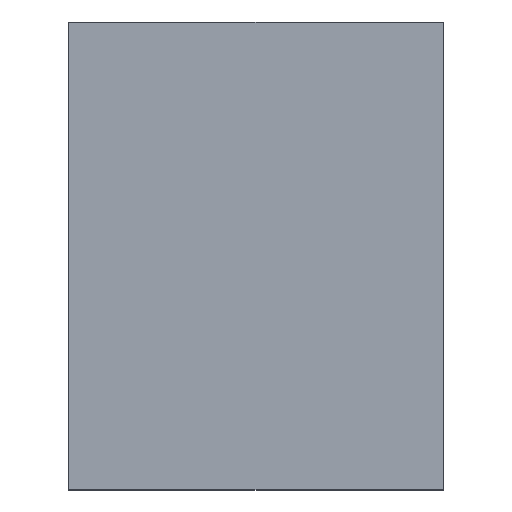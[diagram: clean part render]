
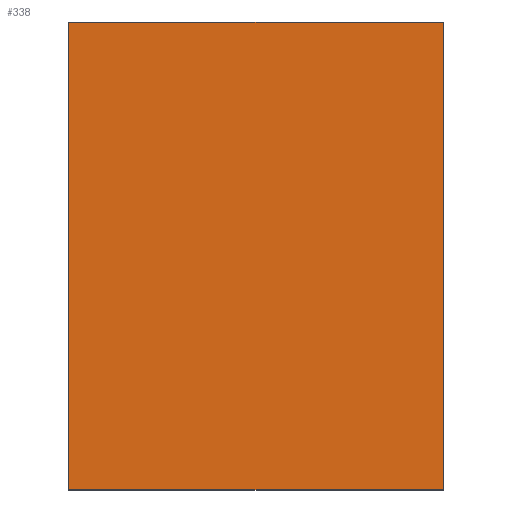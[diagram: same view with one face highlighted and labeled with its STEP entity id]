
A CAD part, top view. The second image highlights one B-rep face of the part: STEP entity #338.
In plain terms, the highlighted planar face has unit normal (0, 0, 1).
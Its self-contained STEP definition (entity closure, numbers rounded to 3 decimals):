
#24 = VERTEX_POINT('',#25);
#25 = CARTESIAN_POINT('',(139.,24.,67.7));
#32 = PLANE('',#33);
#33 = AXIS2_PLACEMENT_3D('',#34,#35,#36);
#34 = CARTESIAN_POINT('',(139.,24.,63.2));
#35 = DIRECTION('',(0.,1.,0.));
#36 = DIRECTION('',(0.,0.,1.));
#44 = PLANE('',#45);
#45 = AXIS2_PLACEMENT_3D('',#46,#47,#48);
#46 = CARTESIAN_POINT('',(139.,24.,63.2));
#47 = DIRECTION('',(-1.,0.,0.));
#48 = DIRECTION('',(0.,0.,1.));
#85 = VERTEX_POINT('',#86);
#86 = CARTESIAN_POINT('',(131.,24.,67.7));
#100 = PLANE('',#101);
#101 = AXIS2_PLACEMENT_3D('',#102,#103,#104);
#102 = CARTESIAN_POINT('',(131.,24.,63.2));
#103 = DIRECTION('',(-1.,0.,0.));
#104 = DIRECTION('',(0.,0.,1.));
#112 = EDGE_CURVE('',#24,#85,#113,.T.);
#113 = SURFACE_CURVE('',#114,(#118,#125),.PCURVE_S1.);
#114 = LINE('',#115,#116);
#115 = CARTESIAN_POINT('',(139.,24.,67.7));
#116 = VECTOR('',#117,1.);
#117 = DIRECTION('',(-1.,0.,0.));
#118 = PCURVE('',#32,#119);
#119 = DEFINITIONAL_REPRESENTATION('',(#120),#124);
#120 = LINE('',#121,#122);
#121 = CARTESIAN_POINT('',(4.5,0.));
#122 = VECTOR('',#123,1.);
#123 = DIRECTION('',(0.,-1.));
#124 = ( GEOMETRIC_REPRESENTATION_CONTEXT(2) 
PARAMETRIC_REPRESENTATION_CONTEXT() REPRESENTATION_CONTEXT('2D SPACE',''
  ) );
#125 = PCURVE('',#126,#131);
#126 = PLANE('',#127);
#127 = AXIS2_PLACEMENT_3D('',#128,#129,#130);
#128 = CARTESIAN_POINT('',(139.,24.,67.7));
#129 = DIRECTION('',(0.,0.,1.));
#130 = DIRECTION('',(0.,1.,0.));
#131 = DEFINITIONAL_REPRESENTATION('',(#132),#136);
#132 = LINE('',#133,#134);
#133 = CARTESIAN_POINT('',(0.,0.));
#134 = VECTOR('',#135,1.);
#135 = DIRECTION('',(0.,1.));
#136 = ( GEOMETRIC_REPRESENTATION_CONTEXT(2) 
PARAMETRIC_REPRESENTATION_CONTEXT() REPRESENTATION_CONTEXT('2D SPACE',''
  ) );
#144 = VERTEX_POINT('',#145);
#145 = CARTESIAN_POINT('',(139.,34.,67.7));
#152 = PLANE('',#153);
#153 = AXIS2_PLACEMENT_3D('',#154,#155,#156);
#154 = CARTESIAN_POINT('',(139.,34.,63.2));
#155 = DIRECTION('',(0.,1.,0.));
#156 = DIRECTION('',(0.,0.,1.));
#195 = VERTEX_POINT('',#196);
#196 = CARTESIAN_POINT('',(131.,34.,67.7));
#217 = EDGE_CURVE('',#144,#195,#218,.T.);
#218 = SURFACE_CURVE('',#219,(#223,#230),.PCURVE_S1.);
#219 = LINE('',#220,#221);
#220 = CARTESIAN_POINT('',(139.,34.,67.7));
#221 = VECTOR('',#222,1.);
#222 = DIRECTION('',(-1.,0.,0.));
#223 = PCURVE('',#152,#224);
#224 = DEFINITIONAL_REPRESENTATION('',(#225),#229);
#225 = LINE('',#226,#227);
#226 = CARTESIAN_POINT('',(4.5,0.));
#227 = VECTOR('',#228,1.);
#228 = DIRECTION('',(0.,-1.));
#229 = ( GEOMETRIC_REPRESENTATION_CONTEXT(2) 
PARAMETRIC_REPRESENTATION_CONTEXT() REPRESENTATION_CONTEXT('2D SPACE',''
  ) );
#230 = PCURVE('',#126,#231);
#231 = DEFINITIONAL_REPRESENTATION('',(#232),#236);
#232 = LINE('',#233,#234);
#233 = CARTESIAN_POINT('',(10.,0.));
#234 = VECTOR('',#235,1.);
#235 = DIRECTION('',(0.,1.));
#236 = ( GEOMETRIC_REPRESENTATION_CONTEXT(2) 
PARAMETRIC_REPRESENTATION_CONTEXT() REPRESENTATION_CONTEXT('2D SPACE',''
  ) );
#263 = EDGE_CURVE('',#24,#144,#264,.T.);
#264 = SURFACE_CURVE('',#265,(#269,#276),.PCURVE_S1.);
#265 = LINE('',#266,#267);
#266 = CARTESIAN_POINT('',(139.,24.,67.7));
#267 = VECTOR('',#268,1.);
#268 = DIRECTION('',(0.,1.,0.));
#269 = PCURVE('',#44,#270);
#270 = DEFINITIONAL_REPRESENTATION('',(#271),#275);
#271 = LINE('',#272,#273);
#272 = CARTESIAN_POINT('',(4.5,0.));
#273 = VECTOR('',#274,1.);
#274 = DIRECTION('',(0.,1.));
#275 = ( GEOMETRIC_REPRESENTATION_CONTEXT(2) 
PARAMETRIC_REPRESENTATION_CONTEXT() REPRESENTATION_CONTEXT('2D SPACE',''
  ) );
#276 = PCURVE('',#126,#277);
#277 = DEFINITIONAL_REPRESENTATION('',(#278),#282);
#278 = LINE('',#279,#280);
#279 = CARTESIAN_POINT('',(0.,0.));
#280 = VECTOR('',#281,1.);
#281 = DIRECTION('',(1.,0.));
#282 = ( GEOMETRIC_REPRESENTATION_CONTEXT(2) 
PARAMETRIC_REPRESENTATION_CONTEXT() REPRESENTATION_CONTEXT('2D SPACE',''
  ) );
#310 = EDGE_CURVE('',#85,#195,#311,.T.);
#311 = SURFACE_CURVE('',#312,(#316,#323),.PCURVE_S1.);
#312 = LINE('',#313,#314);
#313 = CARTESIAN_POINT('',(131.,24.,67.7));
#314 = VECTOR('',#315,1.);
#315 = DIRECTION('',(0.,1.,0.));
#316 = PCURVE('',#100,#317);
#317 = DEFINITIONAL_REPRESENTATION('',(#318),#322);
#318 = LINE('',#319,#320);
#319 = CARTESIAN_POINT('',(4.5,0.));
#320 = VECTOR('',#321,1.);
#321 = DIRECTION('',(0.,1.));
#322 = ( GEOMETRIC_REPRESENTATION_CONTEXT(2) 
PARAMETRIC_REPRESENTATION_CONTEXT() REPRESENTATION_CONTEXT('2D SPACE',''
  ) );
#323 = PCURVE('',#126,#324);
#324 = DEFINITIONAL_REPRESENTATION('',(#325),#329);
#325 = LINE('',#326,#327);
#326 = CARTESIAN_POINT('',(0.,8.));
#327 = VECTOR('',#328,1.);
#328 = DIRECTION('',(1.,0.));
#329 = ( GEOMETRIC_REPRESENTATION_CONTEXT(2) 
PARAMETRIC_REPRESENTATION_CONTEXT() REPRESENTATION_CONTEXT('2D SPACE',''
  ) );
#338 = ADVANCED_FACE('',(#339),#126,.T.);
#339 = FACE_BOUND('',#340,.T.);
#340 = EDGE_LOOP('',(#341,#342,#343,#344));
#341 = ORIENTED_EDGE('',*,*,#112,.F.);
#342 = ORIENTED_EDGE('',*,*,#263,.T.);
#343 = ORIENTED_EDGE('',*,*,#217,.T.);
#344 = ORIENTED_EDGE('',*,*,#310,.F.);
